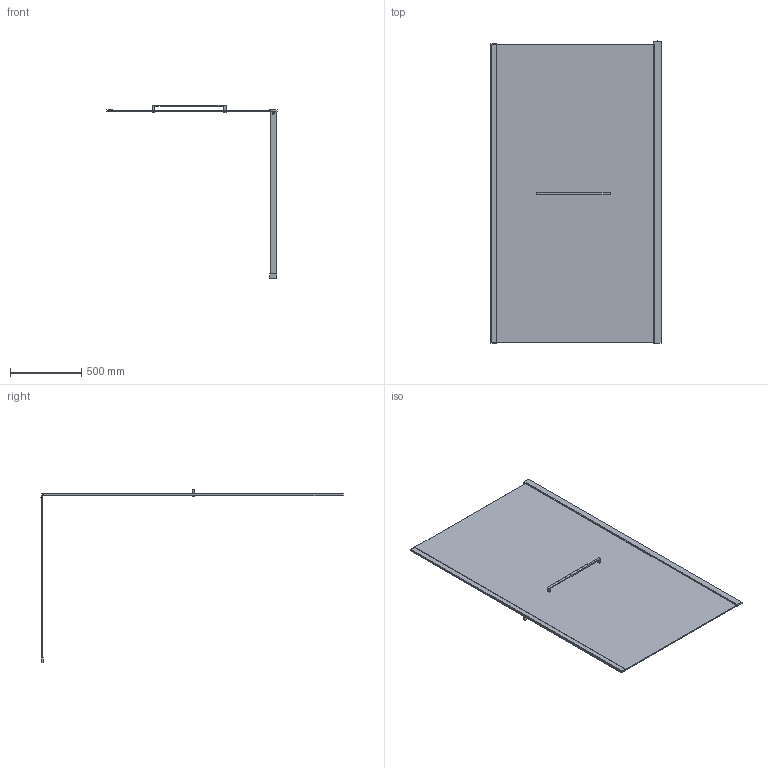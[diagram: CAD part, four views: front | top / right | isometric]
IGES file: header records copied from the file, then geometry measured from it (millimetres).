
Start section: SolidWorks IGES file using analytic representation for surfaces
Global section: file name: D:\Users\M.Szymanski\Desktop\Kabiny\PI_ALTIIa\PI_ALTIIa_120_wspornik poziomy_K3D.IGS; native system: SolidWorks 2011; preprocessor: SolidWorks 2011; author: M.Szymanski; date: 181002.134535; units: millimetre
Bounding box: 1196.4 x 2124.7 x 1223.1 mm (x, y, z)
Surface area: 5712958.3 mm2 (no closed solid volume)
Topology: 0 solids, 0 shells, 56 faces, 367 edges, 477 vertices
Faces by surface type: bspline 52, revolution 4
